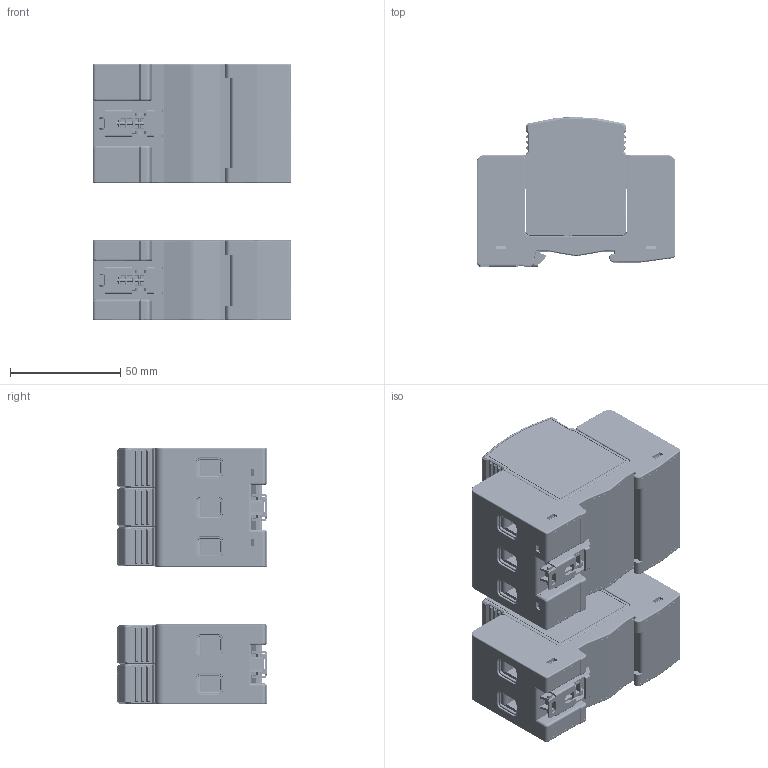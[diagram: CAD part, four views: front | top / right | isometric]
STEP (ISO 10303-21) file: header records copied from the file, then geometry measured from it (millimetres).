
FILE_DESCRIPTION(/* description */ (''),/* implementation_level */ '2;1');
FILE_NAME(/* name */ 'yt2-3p.stp',/* time_stamp */ '2023-07-17T13:18:41+08:00',/* author */ (''),/* organization */ (''),/* preprocessor_version */ 'ST-DEVELOPER v16',/* originating_system */ 'SIEMENS PLM Software NX 10.0',/* authorisation */ '');
FILE_SCHEMA (('AP203_CONFIGURATION_CONTROLLED_3D_DESIGN_OF_MECHANICAL_PARTS_AND_ASSEMBLIES_MIM_LF { 1 0 10303 403 2 1 2}'));
Products named in the file (1): Admi38443A51wzxw
Bounding box: 90 x 67.7 x 116.1 mm (x, y, z)
Volume: 168072 mm3; surface area: 251873.3 mm2
Topology: 41 solids, 41 shells, 7963 faces, 22075 edges, 14209 vertices
Faces by surface type: plane 4540, cylinder 2665, torus 492, sphere 144, bspline 94, cone 28
Entity records: 282710 total; most frequent: CARTESIAN_POINT 77661, ORIENTED_EDGE 43846, DIRECTION 41908, EDGE_CURVE 21923, LINE 14762, VECTOR 14762, VERTEX_POINT 14209, AXIS2_PLACEMENT_3D 13573
